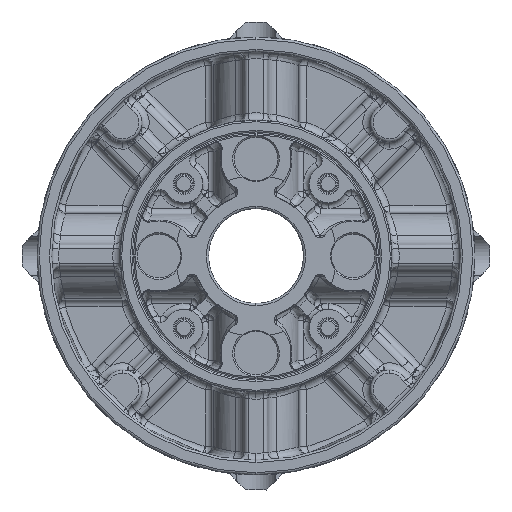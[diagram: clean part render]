
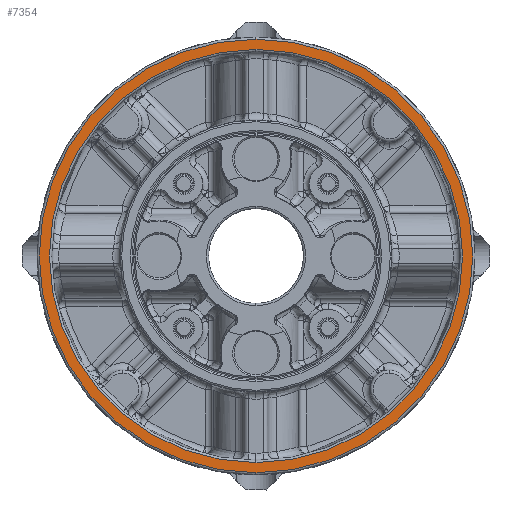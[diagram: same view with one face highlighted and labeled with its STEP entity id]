
A CAD part, left-side view. The second image highlights one B-rep face of the part: STEP entity #7354.
In plain terms, the highlighted planar face has unit normal (-1, 0, 0).
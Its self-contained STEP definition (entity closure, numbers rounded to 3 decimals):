
#971 = DIRECTION ( 'NONE',  ( 1., 0., 0. ) ) ;
#1460 = ORIENTED_EDGE ( 'NONE', *, *, #11465, .T. ) ;
#7354 = ADVANCED_FACE ( 'NONE', ( #51069, #17782 ), #27196, .T. ) ;
#7574 = DIRECTION ( 'NONE',  ( 0., 0., -1. ) ) ;
#7860 = DIRECTION ( 'NONE',  ( 1., 0., 0. ) ) ;
#8998 = AXIS2_PLACEMENT_3D ( 'NONE', #55315, #25494, #49991 ) ;
#10062 = VERTEX_POINT ( 'NONE', #61787 ) ;
#10932 = CARTESIAN_POINT ( 'NONE',  ( -90., 0., -141.5 ) ) ;
#11465 = EDGE_CURVE ( 'NONE', #17277, #42947, #50086, .T. ) ;
#11758 = CIRCLE ( 'NONE', #12745, 148.5 ) ;
#12745 = AXIS2_PLACEMENT_3D ( 'NONE', #24492, #971, #20093 ) ;
#16334 = AXIS2_PLACEMENT_3D ( 'NONE', #32843, #41960, #51371 ) ;
#16508 = CARTESIAN_POINT ( 'NONE',  ( -90., 0., -148.5 ) ) ;
#17277 = VERTEX_POINT ( 'NONE', #43426 ) ;
#17782 = FACE_OUTER_BOUND ( 'NONE', #59664, .T. ) ;
#18899 = EDGE_CURVE ( 'NONE', #42947, #17277, #40510, .T. ) ;
#20093 = DIRECTION ( 'NONE',  ( 0., 0., -1. ) ) ;
#21355 = DIRECTION ( 'NONE',  ( 0., 0., -1. ) ) ;
#24492 = CARTESIAN_POINT ( 'NONE',  ( -90., 0., 0. ) ) ;
#25494 = DIRECTION ( 'NONE',  ( 1., 0., 0. ) ) ;
#27196 = PLANE ( 'NONE',  #16334 ) ;
#31508 = AXIS2_PLACEMENT_3D ( 'NONE', #55257, #7860, #21355 ) ;
#32843 = CARTESIAN_POINT ( 'NONE',  ( -90., 148.5, 0. ) ) ;
#36197 = VERTEX_POINT ( 'NONE', #16508 ) ;
#40510 = CIRCLE ( 'NONE', #31508, 141.5 ) ;
#41960 = DIRECTION ( 'NONE',  ( -1., 0., 0. ) ) ;
#42947 = VERTEX_POINT ( 'NONE', #10932 ) ;
#43426 = CARTESIAN_POINT ( 'NONE',  ( -90., 0., 141.5 ) ) ;
#43727 = CIRCLE ( 'NONE', #47733, 148.5 ) ;
#46319 = EDGE_CURVE ( 'NONE', #36197, #10062, #11758, .T. ) ;
#47733 = AXIS2_PLACEMENT_3D ( 'NONE', #50897, #54982, #7574 ) ;
#49318 = ORIENTED_EDGE ( 'NONE', *, *, #46319, .F. ) ;
#49650 = EDGE_LOOP ( 'NONE', ( #50896, #1460 ) ) ;
#49991 = DIRECTION ( 'NONE',  ( 0., 0., -1. ) ) ;
#50086 = CIRCLE ( 'NONE', #8998, 141.5 ) ;
#50896 = ORIENTED_EDGE ( 'NONE', *, *, #18899, .T. ) ;
#50897 = CARTESIAN_POINT ( 'NONE',  ( -90., 0., 0. ) ) ;
#51069 = FACE_BOUND ( 'NONE', #49650, .T. ) ;
#51371 = DIRECTION ( 'NONE',  ( 0., 0., 1. ) ) ;
#53194 = ORIENTED_EDGE ( 'NONE', *, *, #53276, .F. ) ;
#53276 = EDGE_CURVE ( 'NONE', #10062, #36197, #43727, .T. ) ;
#54982 = DIRECTION ( 'NONE',  ( 1., 0., 0. ) ) ;
#55257 = CARTESIAN_POINT ( 'NONE',  ( -90., 0., 0. ) ) ;
#55315 = CARTESIAN_POINT ( 'NONE',  ( -90., 0., 0. ) ) ;
#59664 = EDGE_LOOP ( 'NONE', ( #49318, #53194 ) ) ;
#61787 = CARTESIAN_POINT ( 'NONE',  ( -90., 0., 148.5 ) ) ;
